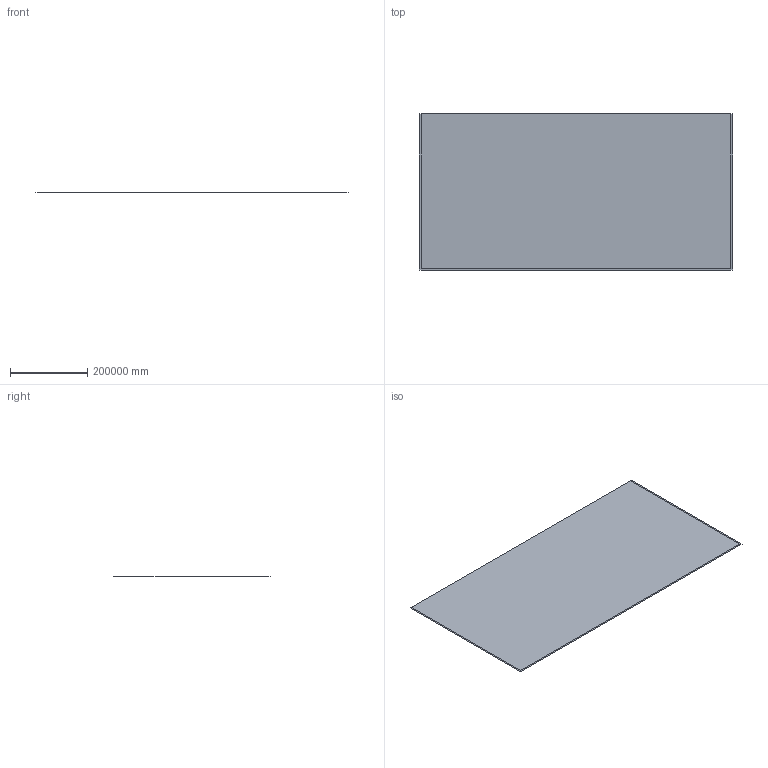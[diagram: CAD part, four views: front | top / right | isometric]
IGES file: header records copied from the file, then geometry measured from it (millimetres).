
Start section: 21HTranslator GiD - IGES
Global section: file name: C:/Users/dn/Desktop/Viscoelastic/Nor_20000E_Viscoelastic/normal.igs; native system: GiD; preprocessor: 12.0.1; organization: CIMNE - International Center for Numerical Methods in Engineering; date: 211018.101226; units: metre
Bounding box: 808000 x 404000 x 0 mm (x, y, z)
Surface area: 326432000294 mm2 (no closed solid volume)
Topology: 0 solids, 0 shells, 6 faces, 24 edges, 24 vertices
Faces by surface type: bspline 6
